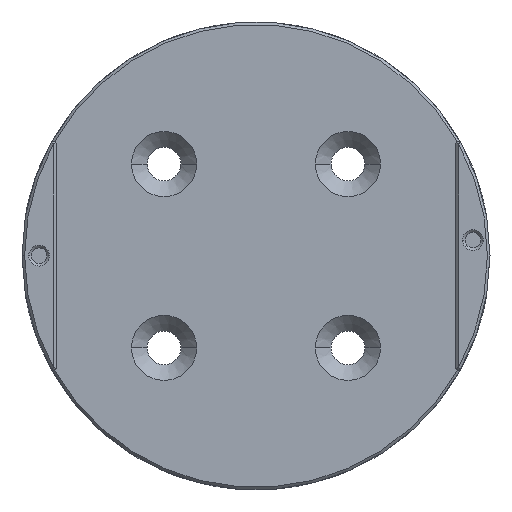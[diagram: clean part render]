
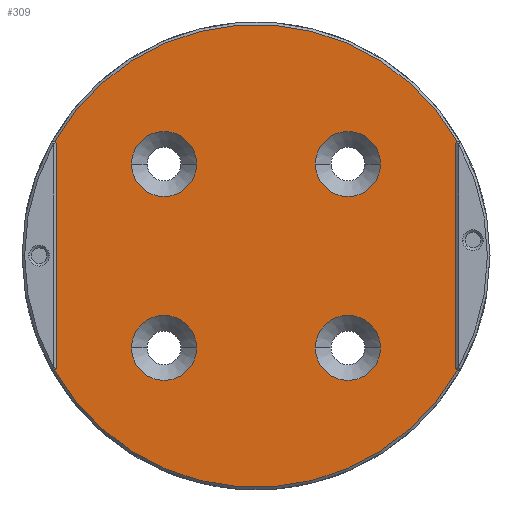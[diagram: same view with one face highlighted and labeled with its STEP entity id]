
A CAD part, top view. The second image highlights one B-rep face of the part: STEP entity #309.
In plain terms, the highlighted planar face has unit normal (0, 0, 1).
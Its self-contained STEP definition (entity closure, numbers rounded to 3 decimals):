
#25 = DIRECTION ( 'NONE',  ( 0., 0., 1. ) ) ;
#29 = CARTESIAN_POINT ( 'NONE',  ( 38.706, -21.957, 6. ) ) ;
#86 = DIRECTION ( 'NONE',  ( 1., 0., 0. ) ) ;
#115 = DIRECTION ( 'NONE',  ( 0., 0., 1. ) ) ;
#142 = ORIENTED_EDGE ( 'NONE', *, *, #1896, .T. ) ;
#153 = LINE ( 'NONE', #1980, #1409 ) ;
#164 = AXIS2_PLACEMENT_3D ( 'NONE', #2505, #1614, #451 ) ;
#204 = AXIS2_PLACEMENT_3D ( 'NONE', #1986, #1564, #2227 ) ;
#209 = AXIS2_PLACEMENT_3D ( 'NONE', #2369, #1469, #2383 ) ;
#228 = CARTESIAN_POINT ( 'NONE',  ( -11.428, -17.678, 6. ) ) ;
#256 = DIRECTION ( 'NONE',  ( 1., 0., 0. ) ) ;
#294 = DIRECTION ( 'NONE',  ( 0., 0., 1. ) ) ;
#309 = ADVANCED_FACE ( 'NONE', ( #2577, #525, #1689, #777, #1436 ), #2593, .T. ) ;
#324 = ORIENTED_EDGE ( 'NONE', *, *, #556, .T. ) ;
#368 = CARTESIAN_POINT ( 'NONE',  ( -38.95, 21.521, 6. ) ) ;
#394 = CIRCLE ( 'NONE', #770, 6.25 ) ;
#409 = DIRECTION ( 'NONE',  ( 1., 0., 0. ) ) ;
#410 = CIRCLE ( 'NONE', #1220, 6.25 ) ;
#441 = CIRCLE ( 'NONE', #2110, 0.5 ) ;
#451 = DIRECTION ( 'NONE',  ( 1., 0., 0. ) ) ;
#490 = AXIS2_PLACEMENT_3D ( 'NONE', #2870, #1513, #1303 ) ;
#525 = FACE_BOUND ( 'NONE', #888, .T. ) ;
#537 = EDGE_LOOP ( 'NONE', ( #324, #2457, #949, #2804, #142, #2778, #2493, #1043 ) ) ;
#552 = CIRCLE ( 'NONE', #2230, 0.5 ) ;
#556 = EDGE_CURVE ( 'NONE', #1637, #1217, #2500, .T. ) ;
#609 = DIRECTION ( 'NONE',  ( 1., 0., 0. ) ) ;
#638 = EDGE_CURVE ( 'NONE', #2622, #2720, #727, .T. ) ;
#669 = EDGE_LOOP ( 'NONE', ( #1472, #1471 ) ) ;
#685 = VERTEX_POINT ( 'NONE', #1497 ) ;
#693 = AXIS2_PLACEMENT_3D ( 'NONE', #2893, #826, #1276 ) ;
#718 = CIRCLE ( 'NONE', #204, 0.5 ) ;
#727 = CIRCLE ( 'NONE', #490, 6.25 ) ;
#770 = AXIS2_PLACEMENT_3D ( 'NONE', #2216, #2145, #2436 ) ;
#777 = FACE_BOUND ( 'NONE', #2412, .T. ) ;
#795 = DIRECTION ( 'NONE',  ( 0., 0., 1. ) ) ;
#807 = CARTESIAN_POINT ( 'NONE',  ( -17.678, 17.678, 6. ) ) ;
#826 = DIRECTION ( 'NONE',  ( 0., 0., 1. ) ) ;
#836 = AXIS2_PLACEMENT_3D ( 'NONE', #2837, #115, #86 ) ;
#845 = CARTESIAN_POINT ( 'NONE',  ( 38.45, 23.379, 6. ) ) ;
#852 = DIRECTION ( 'NONE',  ( 1., 0., 0. ) ) ;
#854 = DIRECTION ( 'NONE',  ( 0., 0., 1. ) ) ;
#888 = EDGE_LOOP ( 'NONE', ( #1124, #1693 ) ) ;
#890 = DIRECTION ( 'NONE',  ( 0., 0., 1. ) ) ;
#935 = DIRECTION ( 'NONE',  ( 0., 0., -1. ) ) ;
#944 = CARTESIAN_POINT ( 'NONE',  ( -38.45, 21.521, 6. ) ) ;
#949 = ORIENTED_EDGE ( 'NONE', *, *, #2301, .T. ) ;
#957 = CIRCLE ( 'NONE', #2737, 6.25 ) ;
#988 = ORIENTED_EDGE ( 'NONE', *, *, #1371, .F. ) ;
#993 = CARTESIAN_POINT ( 'NONE',  ( 11.428, -17.678, 6. ) ) ;
#1002 = AXIS2_PLACEMENT_3D ( 'NONE', #1876, #795, #2612 ) ;
#1029 = AXIS2_PLACEMENT_3D ( 'NONE', #1118, #890, #609 ) ;
#1031 = VERTEX_POINT ( 'NONE', #29 ) ;
#1043 = ORIENTED_EDGE ( 'NONE', *, *, #2950, .F. ) ;
#1082 = CARTESIAN_POINT ( 'NONE',  ( -17.678, -17.678, 6. ) ) ;
#1099 = CARTESIAN_POINT ( 'NONE',  ( 23.928, -17.678, 6. ) ) ;
#1118 = CARTESIAN_POINT ( 'NONE',  ( 17.678, -17.678, 6. ) ) ;
#1124 = ORIENTED_EDGE ( 'NONE', *, *, #2518, .F. ) ;
#1141 = EDGE_CURVE ( 'NONE', #685, #2285, #394, .T. ) ;
#1216 = EDGE_LOOP ( 'NONE', ( #2770, #1951 ) ) ;
#1217 = VERTEX_POINT ( 'NONE', #2696 ) ;
#1220 = AXIS2_PLACEMENT_3D ( 'NONE', #1082, #1997, #852 ) ;
#1276 = DIRECTION ( 'NONE',  ( 1., 0., 0. ) ) ;
#1303 = DIRECTION ( 'NONE',  ( 1., 0., 0. ) ) ;
#1371 = EDGE_CURVE ( 'NONE', #2720, #2622, #2825, .T. ) ;
#1394 = AXIS2_PLACEMENT_3D ( 'NONE', #2845, #25, #1851 ) ;
#1409 = VECTOR ( 'NONE', #2890, 1000. ) ;
#1417 = CARTESIAN_POINT ( 'NONE',  ( 38.95, 21.521, 6. ) ) ;
#1436 = FACE_OUTER_BOUND ( 'NONE', #537, .T. ) ;
#1458 = EDGE_CURVE ( 'NONE', #1217, #1031, #2691, .T. ) ;
#1469 = DIRECTION ( 'NONE',  ( 0., 0., 1. ) ) ;
#1471 = ORIENTED_EDGE ( 'NONE', *, *, #1141, .F. ) ;
#1472 = ORIENTED_EDGE ( 'NONE', *, *, #1581, .F. ) ;
#1474 = CARTESIAN_POINT ( 'NONE',  ( -23.928, -17.678, 6. ) ) ;
#1497 = CARTESIAN_POINT ( 'NONE',  ( 11.428, 17.678, 6. ) ) ;
#1503 = CARTESIAN_POINT ( 'NONE',  ( 38.45, -21.521, 6. ) ) ;
#1513 = DIRECTION ( 'NONE',  ( 0., 0., 1. ) ) ;
#1534 = EDGE_CURVE ( 'NONE', #2513, #2394, #441, .T. ) ;
#1564 = DIRECTION ( 'NONE',  ( 0., 0., -1. ) ) ;
#1577 = VERTEX_POINT ( 'NONE', #1503 ) ;
#1581 = EDGE_CURVE ( 'NONE', #2285, #685, #1889, .T. ) ;
#1602 = ORIENTED_EDGE ( 'NONE', *, *, #638, .F. ) ;
#1614 = DIRECTION ( 'NONE',  ( 0., 0., -1. ) ) ;
#1620 = EDGE_CURVE ( 'NONE', #2137, #1925, #410, .T. ) ;
#1637 = VERTEX_POINT ( 'NONE', #1766 ) ;
#1638 = DIRECTION ( 'NONE',  ( 1., 0., 0. ) ) ;
#1644 = VERTEX_POINT ( 'NONE', #993 ) ;
#1650 = CARTESIAN_POINT ( 'NONE',  ( -38.706, 21.957, 6. ) ) ;
#1671 = EDGE_CURVE ( 'NONE', #2068, #2513, #2367, .T. ) ;
#1689 = FACE_BOUND ( 'NONE', #1216, .T. ) ;
#1693 = ORIENTED_EDGE ( 'NONE', *, *, #1620, .F. ) ;
#1697 = VECTOR ( 'NONE', #1791, 1000. ) ;
#1754 = DIRECTION ( 'NONE',  ( 0., 0., -1. ) ) ;
#1766 = CARTESIAN_POINT ( 'NONE',  ( -38.45, -21.521, 6. ) ) ;
#1791 = DIRECTION ( 'NONE',  ( 0., -1., 0. ) ) ;
#1833 = VERTEX_POINT ( 'NONE', #1099 ) ;
#1843 = EDGE_CURVE ( 'NONE', #2199, #1577, #2020, .T. ) ;
#1851 = DIRECTION ( 'NONE',  ( 1., 0., 0. ) ) ;
#1875 = EDGE_CURVE ( 'NONE', #1833, #1644, #2941, .T. ) ;
#1876 = CARTESIAN_POINT ( 'NONE',  ( -17.678, -17.678, 6. ) ) ;
#1889 = CIRCLE ( 'NONE', #693, 6.25 ) ;
#1896 = EDGE_CURVE ( 'NONE', #2199, #2068, #552, .T. ) ;
#1925 = VERTEX_POINT ( 'NONE', #228 ) ;
#1939 = CARTESIAN_POINT ( 'NONE',  ( 38.45, 21.521, 6. ) ) ;
#1951 = ORIENTED_EDGE ( 'NONE', *, *, #2614, .F. ) ;
#1980 = CARTESIAN_POINT ( 'NONE',  ( -38.45, 23.379, 6. ) ) ;
#1986 = CARTESIAN_POINT ( 'NONE',  ( 38.95, -21.521, 6. ) ) ;
#1997 = DIRECTION ( 'NONE',  ( 0., 0., 1. ) ) ;
#2012 = DIRECTION ( 'NONE',  ( 1., 0., 0. ) ) ;
#2020 = LINE ( 'NONE', #845, #1697 ) ;
#2068 = VERTEX_POINT ( 'NONE', #2569 ) ;
#2110 = AXIS2_PLACEMENT_3D ( 'NONE', #368, #1754, #409 ) ;
#2137 = VERTEX_POINT ( 'NONE', #1474 ) ;
#2145 = DIRECTION ( 'NONE',  ( 0., 0., 1. ) ) ;
#2199 = VERTEX_POINT ( 'NONE', #1939 ) ;
#2216 = CARTESIAN_POINT ( 'NONE',  ( 17.678, 17.678, 6. ) ) ;
#2224 = CARTESIAN_POINT ( 'NONE',  ( 17.678, -17.678, 6. ) ) ;
#2227 = DIRECTION ( 'NONE',  ( 1., 0., 0. ) ) ;
#2230 = AXIS2_PLACEMENT_3D ( 'NONE', #1417, #935, #256 ) ;
#2239 = CARTESIAN_POINT ( 'NONE',  ( -11.428, 17.678, 6. ) ) ;
#2241 = CARTESIAN_POINT ( 'NONE',  ( 23.928, 17.678, 6. ) ) ;
#2285 = VERTEX_POINT ( 'NONE', #2241 ) ;
#2301 = EDGE_CURVE ( 'NONE', #1031, #1577, #718, .T. ) ;
#2367 = CIRCLE ( 'NONE', #836, 44.5 ) ;
#2369 = CARTESIAN_POINT ( 'NONE',  ( 0., 0., 6. ) ) ;
#2383 = DIRECTION ( 'NONE',  ( 1., 0., 0. ) ) ;
#2394 = VERTEX_POINT ( 'NONE', #944 ) ;
#2412 = EDGE_LOOP ( 'NONE', ( #988, #1602 ) ) ;
#2436 = DIRECTION ( 'NONE',  ( 1., 0., 0. ) ) ;
#2457 = ORIENTED_EDGE ( 'NONE', *, *, #1458, .T. ) ;
#2493 = ORIENTED_EDGE ( 'NONE', *, *, #1534, .T. ) ;
#2500 = CIRCLE ( 'NONE', #164, 0.5 ) ;
#2505 = CARTESIAN_POINT ( 'NONE',  ( -38.95, -21.521, 6. ) ) ;
#2513 = VERTEX_POINT ( 'NONE', #1650 ) ;
#2518 = EDGE_CURVE ( 'NONE', #1925, #2137, #2871, .T. ) ;
#2569 = CARTESIAN_POINT ( 'NONE',  ( 38.706, 21.957, 6. ) ) ;
#2577 = FACE_BOUND ( 'NONE', #669, .T. ) ;
#2593 = PLANE ( 'NONE',  #209 ) ;
#2612 = DIRECTION ( 'NONE',  ( 1., 0., 0. ) ) ;
#2614 = EDGE_CURVE ( 'NONE', #1644, #1833, #957, .T. ) ;
#2622 = VERTEX_POINT ( 'NONE', #2861 ) ;
#2691 = CIRCLE ( 'NONE', #1394, 44.5 ) ;
#2696 = CARTESIAN_POINT ( 'NONE',  ( -38.706, -21.957, 6. ) ) ;
#2720 = VERTEX_POINT ( 'NONE', #2239 ) ;
#2737 = AXIS2_PLACEMENT_3D ( 'NONE', #2224, #854, #2012 ) ;
#2770 = ORIENTED_EDGE ( 'NONE', *, *, #1875, .F. ) ;
#2778 = ORIENTED_EDGE ( 'NONE', *, *, #1671, .T. ) ;
#2804 = ORIENTED_EDGE ( 'NONE', *, *, #1843, .F. ) ;
#2825 = CIRCLE ( 'NONE', #2877, 6.25 ) ;
#2837 = CARTESIAN_POINT ( 'NONE',  ( 0., 0., 6. ) ) ;
#2845 = CARTESIAN_POINT ( 'NONE',  ( 0., 0., 6. ) ) ;
#2861 = CARTESIAN_POINT ( 'NONE',  ( -23.928, 17.678, 6. ) ) ;
#2870 = CARTESIAN_POINT ( 'NONE',  ( -17.678, 17.678, 6. ) ) ;
#2871 = CIRCLE ( 'NONE', #1002, 6.25 ) ;
#2877 = AXIS2_PLACEMENT_3D ( 'NONE', #807, #294, #1638 ) ;
#2890 = DIRECTION ( 'NONE',  ( 0., 1., 0. ) ) ;
#2893 = CARTESIAN_POINT ( 'NONE',  ( 17.678, 17.678, 6. ) ) ;
#2941 = CIRCLE ( 'NONE', #1029, 6.25 ) ;
#2950 = EDGE_CURVE ( 'NONE', #1637, #2394, #153, .T. ) ;
